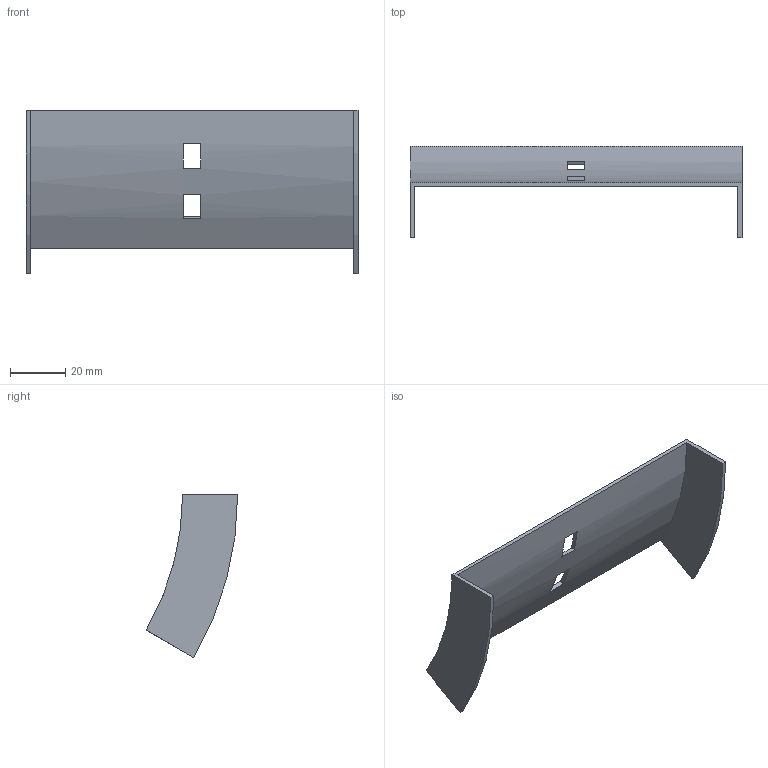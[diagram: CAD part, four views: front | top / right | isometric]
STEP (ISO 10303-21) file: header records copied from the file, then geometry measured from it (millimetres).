
FILE_DESCRIPTION (( 'STEP AP214' ), '1' );
FILE_NAME ('32N1R117.step', '2025-02-21T09:22:19', ( '' ), ( '' ), 'SwSTEP 2.0', 'SolidWorks 2023', '' );
FILE_SCHEMA (( 'AUTOMOTIVE_DESIGN' ));
Length unit declared in the file: millimetre
Products named in the file (1): 32N1R117
Bounding box: 120.5 x 33.2 x 59.25 mm (x, y, z)
Volume: 12389.8 mm3; surface area: 17271.6 mm2
Topology: 1 solids, 1 shells, 18 faces, 48 edges, 32 vertices
Faces by surface type: plane 14, cylinder 4
Entity records: 599 total; most frequent: DIRECTION 102, CARTESIAN_POINT 99, ORIENTED_EDGE 96, EDGE_CURVE 48, AXIS2_PLACEMENT_3D 35, VECTOR 32, LINE 32, VERTEX_POINT 32
